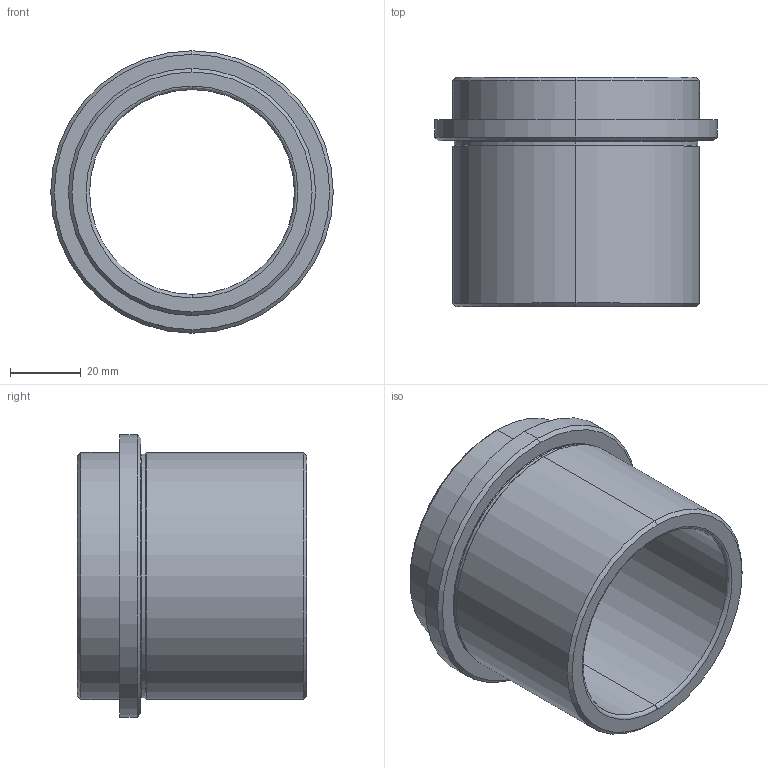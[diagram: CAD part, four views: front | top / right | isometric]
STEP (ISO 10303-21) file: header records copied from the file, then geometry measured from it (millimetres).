
FILE_DESCRIPTION( ( 'STEP AP203' ), '1' );
FILE_NAME( 'D:/Delta 3 D/D28/D28 - 50x47.step', '2003-01-02T07:51:16', ( ' ' ), ( ' ' ), 'XStep 1.0', ' ', ' ' );
FILE_SCHEMA( ( 'CONFIG_CONTROL_DESIGN' ) );
Length unit declared in the file: metre
Products named in the file (1): 1
Bounding box: 80 x 65 x 80 mm (x, y, z)
Volume: 84901.5 mm3; surface area: 30707.6 mm2
Topology: 1 solids, 1 shells, 29 faces, 58 edges, 34 vertices
Faces by surface type: revolution 16, bspline 13
Entity records: 923 total; most frequent: CARTESIAN_POINT 313, ORIENTED_EDGE 116, DIRECTION 102, EDGE_CURVE 58, AXIS2_PLACEMENT_3D 35, EDGE_LOOP 34, VERTEX_POINT 34, CIRCLE 34
